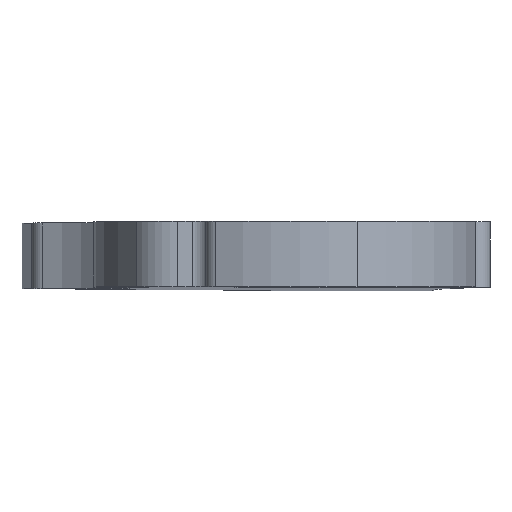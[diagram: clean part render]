
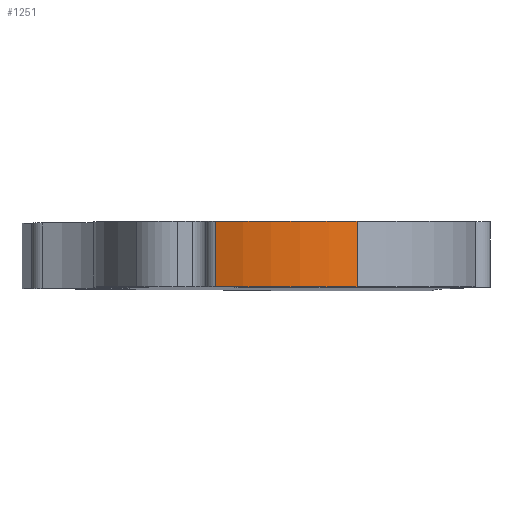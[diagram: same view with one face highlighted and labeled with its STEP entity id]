
A CAD part, top view. The second image highlights one B-rep face of the part: STEP entity #1251.
In plain terms, the highlighted cylindrical face has radius 6.5 mm (diameter 13 mm), a partial arc.
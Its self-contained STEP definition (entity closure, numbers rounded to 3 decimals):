
#278=CARTESIAN_POINT('',(12.339,1.55,53.864));
#279=DIRECTION('',(0.,-1.,0.));
#280=DIRECTION('',(0.325,0.,0.946));
#281=AXIS2_PLACEMENT_3D('',#278,#279,#280);
#385=CARTESIAN_POINT('',(12.339,-0.55,53.864));
#386=DIRECTION('',(0.,-1.,0.));
#387=DIRECTION('',(0.325,0.,0.946));
#388=AXIS2_PLACEMENT_3D('',#385,#386,#387);
#573=DIRECTION('',(0.,-1.,0.));
#574=VECTOR('',#573,2.1);
#575=CARTESIAN_POINT('',(9.896,1.55,59.887));
#576=LINE('',#575,#574);
#577=DIRECTION('',(0.,-1.,0.));
#578=VECTOR('',#577,2.1);
#579=CARTESIAN_POINT('',(14.451,1.55,60.011));
#580=LINE('',#579,#578);
#727=CARTESIAN_POINT('',(14.451,1.55,60.011));
#728=VERTEX_POINT('',#727);
#729=CARTESIAN_POINT('',(9.896,1.55,59.887));
#730=VERTEX_POINT('',#729);
#777=CARTESIAN_POINT('',(14.451,-0.55,60.011));
#778=VERTEX_POINT('',#777);
#779=CARTESIAN_POINT('',(9.896,-0.55,59.887));
#780=VERTEX_POINT('',#779);
#1239=CARTESIAN_POINT('',(12.339,1.55,53.864));
#1240=DIRECTION('',(0.,-1.,0.));
#1241=DIRECTION('',(0.,0.,-1.));
#1242=AXIS2_PLACEMENT_3D('',#1239,#1240,#1241);
#1243=CYLINDRICAL_SURFACE('',#1242,6.5);
#1244=ORIENTED_EDGE('',*,*,#946,.F.);
#1246=ORIENTED_EDGE('',*,*,#1245,.T.);
#1247=ORIENTED_EDGE('',*,*,#1026,.T.);
#1248=ORIENTED_EDGE('',*,*,#1232,.F.);
#1249=EDGE_LOOP('',(#1244,#1246,#1247,#1248));
#1250=FACE_OUTER_BOUND('',#1249,.F.);
#1251=ADVANCED_FACE('',(#1250),#1243,.T.);
#282=CIRCLE('',#281,6.5);
#389=CIRCLE('',#388,6.5);
#946=EDGE_CURVE('',#728,#730,#282,.T.);
#1026=EDGE_CURVE('',#778,#780,#389,.T.);
#1232=EDGE_CURVE('',#730,#780,#576,.T.);
#1245=EDGE_CURVE('',#728,#778,#580,.T.);
